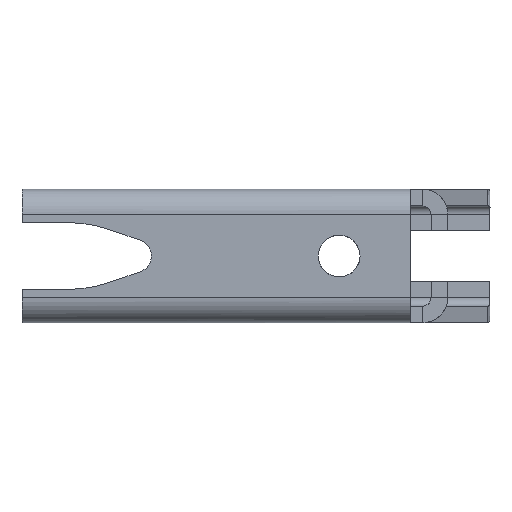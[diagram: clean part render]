
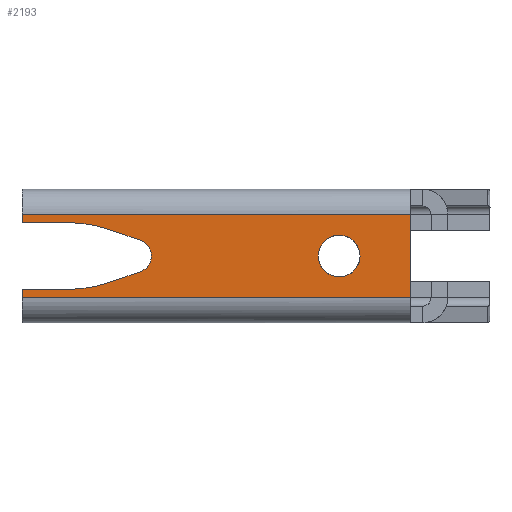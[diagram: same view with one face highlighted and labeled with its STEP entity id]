
A CAD part, left-side view. The second image highlights one B-rep face of the part: STEP entity #2193.
In plain terms, the highlighted planar face has unit normal (-1, 0, 0).
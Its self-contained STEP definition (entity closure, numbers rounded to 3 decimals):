
#342=CARTESIAN_POINT('Vertex',(-2.5,-46.5,-11.)) ;
#382=CARTESIAN_POINT('Line Origine',(-2.5,-27.857,-11.)) ;
#386=CARTESIAN_POINT('Vertex',(-2.5,0.,-11.)) ;
#446=CARTESIAN_POINT('Line Origine',(-2.5,0.,-10.5)) ;
#450=CARTESIAN_POINT('Vertex',(-2.5,0.,-10.)) ;
#477=CARTESIAN_POINT('Line Origine',(-2.5,-2.758,-10.)) ;
#481=CARTESIAN_POINT('Vertex',(-2.5,-5.516,-10.)) ;
#509=CARTESIAN_POINT('Control Point',(-2.5,-5.516,-10.)) ;
#510=CARTESIAN_POINT('Control Point',(-2.5,-7.174,-10.)) ;
#511=CARTESIAN_POINT('Control Point',(-2.5,-8.832,-9.723)) ;
#512=CARTESIAN_POINT('Control Point',(-2.5,-10.4,-9.183)) ;
#513=CARTESIAN_POINT('Vertex',(-2.5,-10.4,-9.183)) ;
#541=CARTESIAN_POINT('Line Origine',(-2.5,-12.275,-8.537)) ;
#545=CARTESIAN_POINT('Vertex',(-2.5,-14.151,-7.891)) ;
#573=CARTESIAN_POINT('Control Point',(-2.5,-14.151,-7.891)) ;
#574=CARTESIAN_POINT('Control Point',(-2.5,-14.53,-7.761)) ;
#575=CARTESIAN_POINT('Control Point',(-2.5,-14.877,-7.535)) ;
#576=CARTESIAN_POINT('Control Point',(-2.5,-15.158,-7.225)) ;
#577=CARTESIAN_POINT('Control Point',(-2.5,-15.632,-6.32)) ;
#578=CARTESIAN_POINT('Control Point',(-2.5,-15.509,-5.27)) ;
#579=CARTESIAN_POINT('Control Point',(-2.5,-15.197,-4.699)) ;
#580=CARTESIAN_POINT('Control Point',(-2.5,-14.709,-4.301)) ;
#581=CARTESIAN_POINT('Control Point',(-2.5,-14.151,-4.109)) ;
#582=CARTESIAN_POINT('Vertex',(-2.5,-14.151,-4.109)) ;
#615=CARTESIAN_POINT('Line Origine',(-2.5,-12.275,-3.463)) ;
#619=CARTESIAN_POINT('Vertex',(-2.5,-10.4,-2.817)) ;
#647=CARTESIAN_POINT('Control Point',(-2.5,-10.4,-2.817)) ;
#648=CARTESIAN_POINT('Control Point',(-2.5,-8.832,-2.277)) ;
#649=CARTESIAN_POINT('Control Point',(-2.5,-7.174,-2.)) ;
#650=CARTESIAN_POINT('Control Point',(-2.5,-5.516,-2.)) ;
#651=CARTESIAN_POINT('Vertex',(-2.5,-5.516,-2.)) ;
#679=CARTESIAN_POINT('Line Origine',(-2.5,-2.758,-2.)) ;
#683=CARTESIAN_POINT('Vertex',(-2.5,0.,-2.)) ;
#716=CARTESIAN_POINT('Vertex',(-2.5,0.,-1.)) ;
#724=CARTESIAN_POINT('Line Origine',(-2.5,0.,-1.5)) ;
#1900=CARTESIAN_POINT('Vertex',(-2.5,-46.5,-1.)) ;
#1920=CARTESIAN_POINT('Line Origine',(-2.5,-27.968,-1.)) ;
#2121=CARTESIAN_POINT('Axis2P3D Location',(-2.5,-46.5,-6.)) ;
#2126=CARTESIAN_POINT('Line Origine',(-2.5,-46.5,-6.)) ;
#2146=CARTESIAN_POINT('Control Point',(-2.5,-40.5,-6.)) ;
#2147=CARTESIAN_POINT('Control Point',(-2.5,-40.5,-5.681)) ;
#2148=CARTESIAN_POINT('Control Point',(-2.5,-40.449,-5.363)) ;
#2149=CARTESIAN_POINT('Control Point',(-2.5,-40.348,-5.055)) ;
#2150=CARTESIAN_POINT('Control Point',(-2.5,-40.053,-4.488)) ;
#2151=CARTESIAN_POINT('Control Point',(-2.5,-39.598,-4.039)) ;
#2152=CARTESIAN_POINT('Control Point',(-2.5,-39.339,-3.853)) ;
#2153=CARTESIAN_POINT('Control Point',(-2.5,-38.771,-3.57)) ;
#2154=CARTESIAN_POINT('Control Point',(-2.5,-38.145,-3.474)) ;
#2155=CARTESIAN_POINT('Control Point',(-2.5,-37.826,-3.476)) ;
#2156=CARTESIAN_POINT('Control Point',(-2.5,-37.201,-3.58)) ;
#2157=CARTESIAN_POINT('Control Point',(-2.5,-36.637,-3.869)) ;
#2158=CARTESIAN_POINT('Control Point',(-2.5,-36.38,-4.057)) ;
#2159=CARTESIAN_POINT('Control Point',(-2.5,-35.934,-4.507)) ;
#2160=CARTESIAN_POINT('Control Point',(-2.5,-35.647,-5.072)) ;
#2161=CARTESIAN_POINT('Control Point',(-2.5,-35.549,-5.375)) ;
#2162=CARTESIAN_POINT('Control Point',(-2.5,-35.5,-5.687)) ;
#2163=CARTESIAN_POINT('Control Point',(-2.5,-35.5,-6.)) ;
#2164=CARTESIAN_POINT('Vertex',(-2.5,-40.5,-6.)) ;
#2166=CARTESIAN_POINT('Vertex',(-2.5,-35.5,-6.)) ;
#2170=CARTESIAN_POINT('Control Point',(-2.5,-35.5,-6.)) ;
#2171=CARTESIAN_POINT('Control Point',(-2.5,-35.5,-6.313)) ;
#2172=CARTESIAN_POINT('Control Point',(-2.5,-35.549,-6.625)) ;
#2173=CARTESIAN_POINT('Control Point',(-2.5,-35.647,-6.928)) ;
#2174=CARTESIAN_POINT('Control Point',(-2.5,-35.934,-7.493)) ;
#2175=CARTESIAN_POINT('Control Point',(-2.5,-36.38,-7.943)) ;
#2176=CARTESIAN_POINT('Control Point',(-2.5,-36.637,-8.131)) ;
#2177=CARTESIAN_POINT('Control Point',(-2.5,-37.201,-8.42)) ;
#2178=CARTESIAN_POINT('Control Point',(-2.5,-37.826,-8.524)) ;
#2179=CARTESIAN_POINT('Control Point',(-2.5,-38.145,-8.526)) ;
#2180=CARTESIAN_POINT('Control Point',(-2.5,-38.771,-8.43)) ;
#2181=CARTESIAN_POINT('Control Point',(-2.5,-39.339,-8.147)) ;
#2182=CARTESIAN_POINT('Control Point',(-2.5,-39.598,-7.961)) ;
#2183=CARTESIAN_POINT('Control Point',(-2.5,-40.053,-7.512)) ;
#2184=CARTESIAN_POINT('Control Point',(-2.5,-40.348,-6.945)) ;
#2185=CARTESIAN_POINT('Control Point',(-2.5,-40.449,-6.637)) ;
#2186=CARTESIAN_POINT('Control Point',(-2.5,-40.5,-6.319)) ;
#2187=CARTESIAN_POINT('Control Point',(-2.5,-40.5,-6.)) ;
#383=DIRECTION('Vector Direction',(0.,1.,0.)) ;
#447=DIRECTION('Vector Direction',(0.,0.,-1.)) ;
#478=DIRECTION('Vector Direction',(0.,-1.,0.)) ;
#542=DIRECTION('Vector Direction',(0.,-0.946,0.326)) ;
#616=DIRECTION('Vector Direction',(0.,0.946,0.326)) ;
#680=DIRECTION('Vector Direction',(0.,1.,0.)) ;
#725=DIRECTION('Vector Direction',(0.,0.,-1.)) ;
#1921=DIRECTION('Vector Direction',(0.,1.,0.)) ;
#2122=DIRECTION('Axis2P3D Direction',(-1.,0.,0.)) ;
#2123=DIRECTION('Axis2P3D XDirection',(0.,0.,1.)) ;
#2127=DIRECTION('Vector Direction',(0.,0.,-1.)) ;
#2124=AXIS2_PLACEMENT_3D('Plane Axis2P3D',#2121,#2122,#2123) ;
#2132=ORIENTED_EDGE('',*,*,#1924,.T.) ;
#2133=ORIENTED_EDGE('',*,*,#728,.T.) ;
#2134=ORIENTED_EDGE('',*,*,#685,.F.) ;
#2135=ORIENTED_EDGE('',*,*,#653,.F.) ;
#2136=ORIENTED_EDGE('',*,*,#621,.F.) ;
#2137=ORIENTED_EDGE('',*,*,#584,.F.) ;
#2138=ORIENTED_EDGE('',*,*,#547,.F.) ;
#2139=ORIENTED_EDGE('',*,*,#515,.F.) ;
#2140=ORIENTED_EDGE('',*,*,#483,.F.) ;
#2141=ORIENTED_EDGE('',*,*,#452,.T.) ;
#2142=ORIENTED_EDGE('',*,*,#388,.F.) ;
#2143=ORIENTED_EDGE('',*,*,#2130,.F.) ;
#2190=ORIENTED_EDGE('',*,*,#2168,.F.) ;
#2191=ORIENTED_EDGE('',*,*,#2188,.F.) ;
#2192=FACE_BOUND('',#2189,.T.) ;
#384=VECTOR('Line Direction',#383,1.) ;
#448=VECTOR('Line Direction',#447,1.) ;
#479=VECTOR('Line Direction',#478,1.) ;
#543=VECTOR('Line Direction',#542,1.) ;
#617=VECTOR('Line Direction',#616,1.) ;
#681=VECTOR('Line Direction',#680,1.) ;
#726=VECTOR('Line Direction',#725,1.) ;
#1922=VECTOR('Line Direction',#1921,1.) ;
#2128=VECTOR('Line Direction',#2127,1.) ;
#2193=ADVANCED_FACE('',(#2144,#2192),#2125,.T.) ;
#508=B_SPLINE_CURVE_WITH_KNOTS('',3,(#509,#510,#511,#512),.UNSPECIFIED.,.F.,.U.,(4,4),(0.,7.035),.UNSPECIFIED.) ;
#572=B_SPLINE_CURVE_WITH_KNOTS('',5,(#573,#574,#575,#576,#577,#578,#579,#580,#581),.UNSPECIFIED.,.F.,.U.,(6,3,6),(0.,2.835,7.01),.UNSPECIFIED.) ;
#646=B_SPLINE_CURVE_WITH_KNOTS('',3,(#647,#648,#649,#650),.UNSPECIFIED.,.F.,.U.,(4,4),(0.,7.035),.UNSPECIFIED.) ;
#2145=B_SPLINE_CURVE_WITH_KNOTS('',5,(#2146,#2147,#2148,#2149,#2150,#2151,#2152,#2153,#2154,#2155,#2156,#2157,#2158,#2159,#2160,#2161,#2162,#2163),.UNSPECIFIED.,.F.,.U.,(6,3,3,3,3,6),(0.,2.252,4.467,6.681,8.896,11.107),.UNSPECIFIED.) ;
#2169=B_SPLINE_CURVE_WITH_KNOTS('',5,(#2170,#2171,#2172,#2173,#2174,#2175,#2176,#2177,#2178,#2179,#2180,#2181,#2182,#2183,#2184,#2185,#2186,#2187),.UNSPECIFIED.,.F.,.U.,(6,3,3,3,3,6),(11.107,13.318,15.533,17.747,19.961,22.214),.UNSPECIFIED.) ;
#388=EDGE_CURVE('',#343,#387,#385,.T.) ;
#452=EDGE_CURVE('',#451,#387,#449,.T.) ;
#483=EDGE_CURVE('',#451,#482,#480,.T.) ;
#515=EDGE_CURVE('',#482,#514,#508,.T.) ;
#547=EDGE_CURVE('',#514,#546,#544,.T.) ;
#584=EDGE_CURVE('',#546,#583,#572,.T.) ;
#621=EDGE_CURVE('',#583,#620,#618,.T.) ;
#653=EDGE_CURVE('',#620,#652,#646,.T.) ;
#685=EDGE_CURVE('',#652,#684,#682,.T.) ;
#728=EDGE_CURVE('',#717,#684,#727,.T.) ;
#1924=EDGE_CURVE('',#1901,#717,#1923,.T.) ;
#2130=EDGE_CURVE('',#1901,#343,#2129,.T.) ;
#2168=EDGE_CURVE('',#2165,#2167,#2145,.T.) ;
#2188=EDGE_CURVE('',#2167,#2165,#2169,.T.) ;
#2131=EDGE_LOOP('',(#2132,#2133,#2134,#2135,#2136,#2137,#2138,#2139,#2140,#2141,#2142,#2143)) ;
#2189=EDGE_LOOP('',(#2190,#2191)) ;
#2144=FACE_OUTER_BOUND('',#2131,.T.) ;
#385=LINE('Line',#382,#384) ;
#449=LINE('Line',#446,#448) ;
#480=LINE('Line',#477,#479) ;
#544=LINE('Line',#541,#543) ;
#618=LINE('Line',#615,#617) ;
#682=LINE('Line',#679,#681) ;
#727=LINE('Line',#724,#726) ;
#1923=LINE('Line',#1920,#1922) ;
#2129=LINE('Line',#2126,#2128) ;
#2125=PLANE('Plane',#2124) ;
#343=VERTEX_POINT('',#342) ;
#387=VERTEX_POINT('',#386) ;
#451=VERTEX_POINT('',#450) ;
#482=VERTEX_POINT('',#481) ;
#514=VERTEX_POINT('',#513) ;
#546=VERTEX_POINT('',#545) ;
#583=VERTEX_POINT('',#582) ;
#620=VERTEX_POINT('',#619) ;
#652=VERTEX_POINT('',#651) ;
#684=VERTEX_POINT('',#683) ;
#717=VERTEX_POINT('',#716) ;
#1901=VERTEX_POINT('',#1900) ;
#2165=VERTEX_POINT('',#2164) ;
#2167=VERTEX_POINT('',#2166) ;
